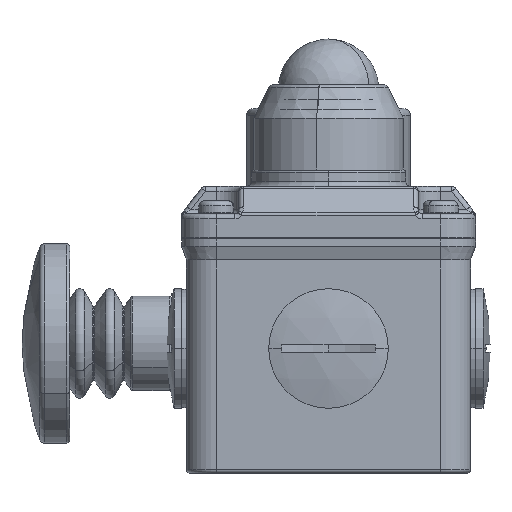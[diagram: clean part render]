
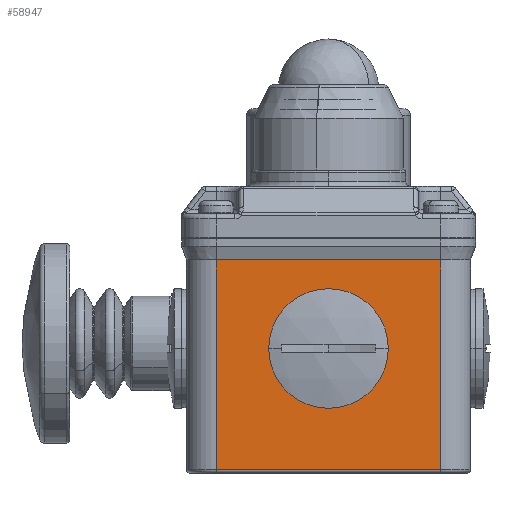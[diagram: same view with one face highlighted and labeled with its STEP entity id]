
A CAD part, front view. The second image highlights one B-rep face of the part: STEP entity #58947.
In plain terms, the highlighted planar face has unit normal (0, -1, 0).
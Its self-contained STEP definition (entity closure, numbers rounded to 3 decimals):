
#1521 = CARTESIAN_POINT ( 'NONE',  ( 153.481, 256.811, 259.265 ) ) ;
#2398 = EDGE_CURVE ( 'NONE', #23922, #3514, #10764, .T. ) ;
#2581 = CARTESIAN_POINT ( 'NONE',  ( 108.481, 256.811, 301.318 ) ) ;
#3514 = VERTEX_POINT ( 'NONE', #16093 ) ;
#6194 = LINE ( 'NONE', #29944, #66099 ) ;
#8536 = AXIS2_PLACEMENT_3D ( 'NONE', #62563, #9368, #26409 ) ;
#9368 = DIRECTION ( 'NONE',  ( 0., 1., 0. ) ) ;
#9957 = EDGE_LOOP ( 'NONE', ( #12912, #49676 ) ) ;
#10764 = CIRCLE ( 'NONE', #65237, 11.414 ) ;
#11898 = EDGE_CURVE ( 'NONE', #71812, #44139, #55852, .T. ) ;
#12912 = ORIENTED_EDGE ( 'NONE', *, *, #28620, .T. ) ;
#13190 = ORIENTED_EDGE ( 'NONE', *, *, #40272, .T. ) ;
#14155 = EDGE_CURVE ( 'NONE', #18600, #44139, #47057, .T. ) ;
#16093 = CARTESIAN_POINT ( 'NONE',  ( 130.981, 256.811, 294.98 ) ) ;
#16095 = CIRCLE ( 'NONE', #8536, 11.414 ) ;
#17435 = PLANE ( 'NONE',  #56547 ) ;
#17830 = DIRECTION ( 'NONE',  ( 0., 1., 0. ) ) ;
#18313 = VERTEX_POINT ( 'NONE', #2581 ) ;
#18600 = VERTEX_POINT ( 'NONE', #19167 ) ;
#19167 = CARTESIAN_POINT ( 'NONE',  ( 153.481, 256.811, 301.318 ) ) ;
#23674 = ORIENTED_EDGE ( 'NONE', *, *, #11898, .T. ) ;
#23738 = FACE_BOUND ( 'NONE', #9957, .T. ) ;
#23922 = VERTEX_POINT ( 'NONE', #64431 ) ;
#25769 = DIRECTION ( 'NONE',  ( -1., 0., 0. ) ) ;
#26409 = DIRECTION ( 'NONE',  ( 0., 0., 1. ) ) ;
#28620 = EDGE_CURVE ( 'NONE', #3514, #23922, #16095, .T. ) ;
#29944 = CARTESIAN_POINT ( 'NONE',  ( 108.481, 256.811, 305.565 ) ) ;
#31736 = LINE ( 'NONE', #55967, #58828 ) ;
#33577 = ORIENTED_EDGE ( 'NONE', *, *, #57703, .T. ) ;
#34308 = CARTESIAN_POINT ( 'NONE',  ( 153.481, 256.811, 305.565 ) ) ;
#35503 = DIRECTION ( 'NONE',  ( 0., 0., -1. ) ) ;
#37230 = CARTESIAN_POINT ( 'NONE',  ( 108.481, 256.811, 259.265 ) ) ;
#39880 = CARTESIAN_POINT ( 'NONE',  ( 153.481, 256.811, 259.265 ) ) ;
#40272 = EDGE_CURVE ( 'NONE', #18313, #71812, #6194, .T. ) ;
#44139 = VERTEX_POINT ( 'NONE', #39880 ) ;
#47057 = LINE ( 'NONE', #34308, #55781 ) ;
#49521 = DIRECTION ( 'NONE',  ( 1., 0., 0. ) ) ;
#49676 = ORIENTED_EDGE ( 'NONE', *, *, #2398, .T. ) ;
#53653 = CARTESIAN_POINT ( 'NONE',  ( 130.981, 256.811, 283.565 ) ) ;
#54820 = EDGE_LOOP ( 'NONE', ( #58294, #33577, #13190, #23674 ) ) ;
#55781 = VECTOR ( 'NONE', #35503, 1000. ) ;
#55852 = LINE ( 'NONE', #1521, #76650 ) ;
#55967 = CARTESIAN_POINT ( 'NONE',  ( 108.481, 256.811, 301.318 ) ) ;
#56547 = AXIS2_PLACEMENT_3D ( 'NONE', #59850, #17830, #59466 ) ;
#57703 = EDGE_CURVE ( 'NONE', #18600, #18313, #31736, .T. ) ;
#58294 = ORIENTED_EDGE ( 'NONE', *, *, #14155, .F. ) ;
#58828 = VECTOR ( 'NONE', #25769, 1000. ) ;
#58947 = ADVANCED_FACE ( 'NONE', ( #23738, #65421 ), #17435, .F. ) ;
#59466 = DIRECTION ( 'NONE',  ( 0., 0., 1. ) ) ;
#59850 = CARTESIAN_POINT ( 'NONE',  ( 108.481, 256.811, 305.565 ) ) ;
#60910 = DIRECTION ( 'NONE',  ( 0., 0., -1. ) ) ;
#62563 = CARTESIAN_POINT ( 'NONE',  ( 130.981, 256.811, 283.565 ) ) ;
#64431 = CARTESIAN_POINT ( 'NONE',  ( 130.981, 256.811, 272.151 ) ) ;
#65237 = AXIS2_PLACEMENT_3D ( 'NONE', #53653, #77013, #71903 ) ;
#65421 = FACE_OUTER_BOUND ( 'NONE', #54820, .T. ) ;
#66099 = VECTOR ( 'NONE', #60910, 1000. ) ;
#71812 = VERTEX_POINT ( 'NONE', #37230 ) ;
#71903 = DIRECTION ( 'NONE',  ( 0., 0., 1. ) ) ;
#76650 = VECTOR ( 'NONE', #49521, 1000. ) ;
#77013 = DIRECTION ( 'NONE',  ( 0., 1., 0. ) ) ;
